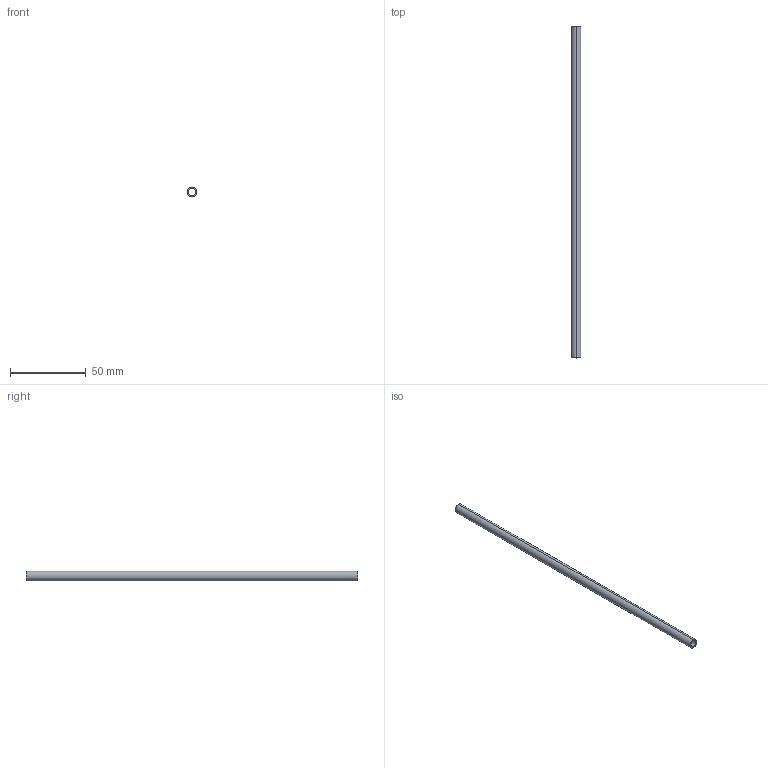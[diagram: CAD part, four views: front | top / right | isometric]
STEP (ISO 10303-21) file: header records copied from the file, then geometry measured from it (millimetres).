
FILE_DESCRIPTION (( 'STEP AP214' ), '1' );
FILE_NAME ('TUBE.STEP', '2026-09-02T03:55:34', ( '' ), ( '' ), 'SwSTEP 2.0', 'SolidWorks 2025', '' );
FILE_SCHEMA (( 'AUTOMOTIVE_DESIGN' ));
Length unit declared in the file: millimetre
Products named in the file (1): TUBE
Bounding box: 6.35 x 219.07 x 6.35 mm (x, y, z)
Volume: 3056.1 mm3; surface area: 7667.3 mm2
Topology: 1 solids, 1 shells, 6 faces, 12 edges, 8 vertices
Faces by surface type: cylinder 4, plane 2
Entity records: 191 total; most frequent: DIRECTION 34, CARTESIAN_POINT 27, ORIENTED_EDGE 24, AXIS2_PLACEMENT_3D 15, EDGE_CURVE 12, CIRCLE 8, VERTEX_POINT 8, EDGE_LOOP 8
